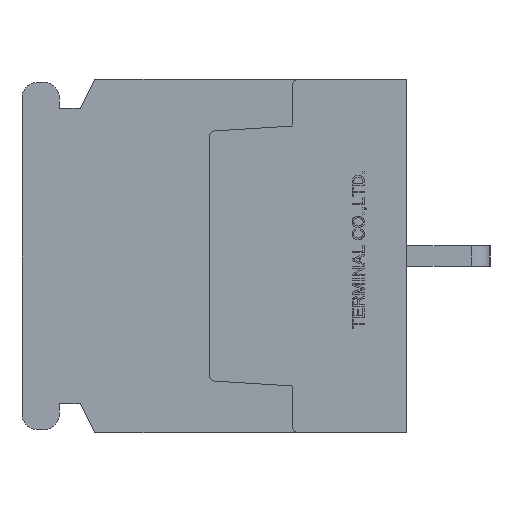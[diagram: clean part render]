
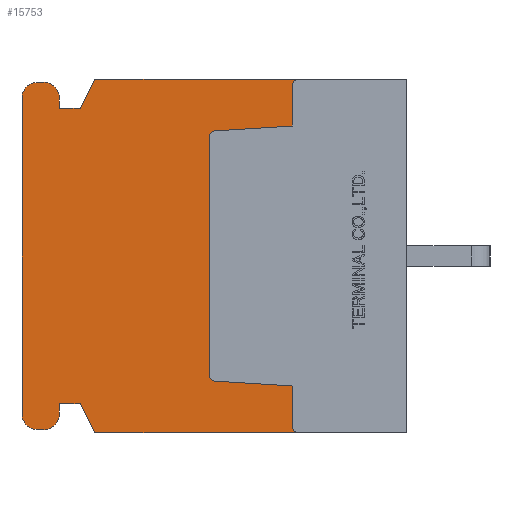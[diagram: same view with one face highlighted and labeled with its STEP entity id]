
A CAD part, left-side view. The second image highlights one B-rep face of the part: STEP entity #15753.
In plain terms, the highlighted planar face has unit normal (-1, 0, 0).
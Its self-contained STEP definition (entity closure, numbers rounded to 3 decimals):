
#352=CIRCLE('',#16188,0.3);
#353=CIRCLE('',#16190,0.3);
#354=CIRCLE('',#16194,0.3);
#355=CIRCLE('',#16197,0.3);
#640=CIRCLE('',#16964,0.75);
#641=CIRCLE('',#16965,0.75);
#642=CIRCLE('',#16966,0.75);
#643=CIRCLE('',#16967,0.75);
#1364=VERTEX_POINT('',#22125);
#1365=VERTEX_POINT('',#22126);
#1366=VERTEX_POINT('',#22131);
#1367=VERTEX_POINT('',#22135);
#1368=VERTEX_POINT('',#22136);
#1369=VERTEX_POINT('',#22141);
#1370=VERTEX_POINT('',#22145);
#1371=VERTEX_POINT('',#22149);
#1372=VERTEX_POINT('',#22153);
#1373=VERTEX_POINT('',#22157);
#1877=VERTEX_POINT('',#23788);
#1903=VERTEX_POINT('',#23846);
#2139=VERTEX_POINT('',#24674);
#2140=VERTEX_POINT('',#24676);
#2141=VERTEX_POINT('',#24678);
#2142=VERTEX_POINT('',#24680);
#2143=VERTEX_POINT('',#24682);
#2144=VERTEX_POINT('',#24684);
#2145=VERTEX_POINT('',#24686);
#2146=VERTEX_POINT('',#24688);
#2147=VERTEX_POINT('',#24690);
#2148=VERTEX_POINT('',#24692);
#2149=VERTEX_POINT('',#24694);
#2150=VERTEX_POINT('',#24696);
#3013=VECTOR('',#17752,1.);
#3019=VECTOR('',#17767,1.);
#3021=VECTOR('',#17770,1.);
#3024=VECTOR('',#17778,1.);
#3027=VECTOR('',#17786,1.);
#3499=VECTOR('',#19056,1.);
#3530=VECTOR('',#19089,1.);
#3770=VECTOR('',#19760,1.);
#3771=VECTOR('',#19761,1.);
#3772=VECTOR('',#19762,1.);
#3773=VECTOR('',#19765,1.);
#3774=VECTOR('',#19768,1.);
#3775=VECTOR('',#19771,1.);
#3776=VECTOR('',#19774,1.);
#3777=VECTOR('',#19775,1.);
#3778=VECTOR('',#19776,1.);
#4707=LINE('',#22124,#3013);
#4713=LINE('',#22140,#3019);
#4715=LINE('',#22144,#3021);
#4718=LINE('',#22152,#3024);
#4721=LINE('',#22160,#3027);
#5193=LINE('',#23787,#3499);
#5224=LINE('',#23847,#3530);
#5464=LINE('',#24673,#3770);
#5465=LINE('',#24675,#3771);
#5466=LINE('',#24677,#3772);
#5467=LINE('',#24681,#3773);
#5468=LINE('',#24685,#3774);
#5469=LINE('',#24689,#3775);
#5470=LINE('',#24693,#3776);
#5471=LINE('',#24695,#3777);
#5472=LINE('',#24697,#3778);
#6509=EDGE_CURVE('',#1364,#1365,#4707,.T.);
#6512=EDGE_CURVE('',#1366,#1364,#352,.T.);
#6514=EDGE_CURVE('',#1367,#1368,#353,.T.);
#6517=EDGE_CURVE('',#1369,#1367,#4713,.T.);
#6519=EDGE_CURVE('',#1370,#1369,#4715,.T.);
#6521=EDGE_CURVE('',#1371,#1370,#354,.T.);
#6523=EDGE_CURVE('',#1372,#1371,#4718,.T.);
#6525=EDGE_CURVE('',#1373,#1372,#355,.T.);
#6527=EDGE_CURVE('',#1365,#1373,#4721,.T.);
#7260=EDGE_CURVE('',#1366,#1877,#5193,.T.);
#7291=EDGE_CURVE('',#1903,#1368,#5224,.T.);
#7662=EDGE_CURVE('',#2139,#1903,#5464,.T.);
#7663=EDGE_CURVE('',#2140,#2139,#5465,.T.);
#7664=EDGE_CURVE('',#2141,#2140,#5466,.T.);
#7665=EDGE_CURVE('',#2142,#2141,#640,.T.);
#7666=EDGE_CURVE('',#2143,#2142,#5467,.T.);
#7667=EDGE_CURVE('',#2144,#2143,#641,.T.);
#7668=EDGE_CURVE('',#2145,#2144,#5468,.T.);
#7669=EDGE_CURVE('',#2146,#2145,#642,.T.);
#7670=EDGE_CURVE('',#2147,#2146,#5469,.T.);
#7671=EDGE_CURVE('',#2148,#2147,#643,.T.);
#7672=EDGE_CURVE('',#2149,#2148,#5470,.T.);
#7673=EDGE_CURVE('',#2150,#2149,#5471,.T.);
#7674=EDGE_CURVE('',#1877,#2150,#5472,.T.);
#11654=ORIENTED_EDGE('',*,*,#6514,.T.);
#11655=ORIENTED_EDGE('',*,*,#7291,.F.);
#11656=ORIENTED_EDGE('',*,*,#7662,.F.);
#11657=ORIENTED_EDGE('',*,*,#7663,.F.);
#11658=ORIENTED_EDGE('',*,*,#7664,.F.);
#11659=ORIENTED_EDGE('',*,*,#7665,.F.);
#11660=ORIENTED_EDGE('',*,*,#7666,.F.);
#11661=ORIENTED_EDGE('',*,*,#7667,.F.);
#11662=ORIENTED_EDGE('',*,*,#7668,.F.);
#11663=ORIENTED_EDGE('',*,*,#7669,.F.);
#11664=ORIENTED_EDGE('',*,*,#7670,.F.);
#11665=ORIENTED_EDGE('',*,*,#7671,.F.);
#11666=ORIENTED_EDGE('',*,*,#7672,.F.);
#11667=ORIENTED_EDGE('',*,*,#7673,.F.);
#11668=ORIENTED_EDGE('',*,*,#7674,.F.);
#11669=ORIENTED_EDGE('',*,*,#7260,.F.);
#11670=ORIENTED_EDGE('',*,*,#6512,.T.);
#11671=ORIENTED_EDGE('',*,*,#6509,.T.);
#11672=ORIENTED_EDGE('',*,*,#6527,.T.);
#11673=ORIENTED_EDGE('',*,*,#6525,.T.);
#11674=ORIENTED_EDGE('',*,*,#6523,.T.);
#11675=ORIENTED_EDGE('',*,*,#6521,.T.);
#11676=ORIENTED_EDGE('',*,*,#6519,.T.);
#11677=ORIENTED_EDGE('',*,*,#6517,.T.);
#13807=EDGE_LOOP('',(#11654,#11655,#11656,#11657,#11658,#11659,#11660,#11661,
#11662,#11663,#11664,#11665,#11666,#11667,#11668,#11669,#11670,#11671,#11672,
#11673,#11674,#11675,#11676,#11677));
#14815=FACE_BOUND('',#13807,.T.);
#15753=ADVANCED_FACE('',(#14815),#27000,.F.);
#16188=AXIS2_PLACEMENT_3D('',#22130,#17757,#17758);
#16190=AXIS2_PLACEMENT_3D('',#22134,#17762,#17763);
#16194=AXIS2_PLACEMENT_3D('',#22148,#17774,#17775);
#16197=AXIS2_PLACEMENT_3D('',#22156,#17782,#17783);
#16963=AXIS2_PLACEMENT_3D('',#24672,#19759,$);
#16964=AXIS2_PLACEMENT_3D('',#24679,#19763,#19764);
#16965=AXIS2_PLACEMENT_3D('',#24683,#19766,#19767);
#16966=AXIS2_PLACEMENT_3D('',#24687,#19769,#19770);
#16967=AXIS2_PLACEMENT_3D('',#24691,#19772,#19773);
#17752=DIRECTION('',(0.,0.,1.));
#17757=DIRECTION('',(1.,0.,0.));
#17758=DIRECTION('',(0.,0.,-0.3));
#17762=DIRECTION('',(1.,0.,0.));
#17763=DIRECTION('',(0.,0.,-0.3));
#17767=DIRECTION('',(0.,0.,1.));
#17770=DIRECTION('',(0.,-0.998,0.062));
#17774=DIRECTION('',(1.,0.,0.));
#17775=DIRECTION('',(0.,0.,-0.3));
#17778=DIRECTION('',(0.,0.,1.));
#17782=DIRECTION('',(1.,0.,0.));
#17783=DIRECTION('',(0.,0.,-0.3));
#17786=DIRECTION('',(0.,0.998,0.062));
#19056=DIRECTION('',(0.,1.,0.));
#19089=DIRECTION('',(0.,-1.,0.));
#19759=DIRECTION('',(1.,0.,0.));
#19760=DIRECTION('',(0.,-0.447,0.894));
#19761=DIRECTION('',(0.,-1.,0.));
#19762=DIRECTION('',(0.,0.,-1.));
#19763=DIRECTION('',(1.,0.,0.));
#19764=DIRECTION('',(0.,0.,-0.75));
#19765=DIRECTION('',(0.,-1.,0.));
#19766=DIRECTION('',(1.,0.,0.));
#19767=DIRECTION('',(0.,0.,-0.75));
#19768=DIRECTION('',(0.,0.,1.));
#19769=DIRECTION('',(1.,0.,0.));
#19770=DIRECTION('',(0.,0.,-0.75));
#19771=DIRECTION('',(0.,1.,0.));
#19772=DIRECTION('',(1.,0.,0.));
#19773=DIRECTION('',(0.,0.,-0.75));
#19774=DIRECTION('',(0.,0.,-1.));
#19775=DIRECTION('',(0.,1.,0.));
#19776=DIRECTION('',(0.,0.447,0.894));
#22124=CARTESIAN_POINT('',(0.,5.5,-3.613));
#22125=CARTESIAN_POINT('',(0.,5.5,-8.2));
#22126=CARTESIAN_POINT('',(0.,5.5,-6.25));
#22130=CARTESIAN_POINT('',(0.,5.2,-8.2));
#22131=CARTESIAN_POINT('',(0.,5.2,-8.5));
#22134=CARTESIAN_POINT('',(0.,5.2,8.2));
#22135=CARTESIAN_POINT('',(0.,5.5,8.2));
#22136=CARTESIAN_POINT('',(0.,5.2,8.5));
#22140=CARTESIAN_POINT('',(0.,5.5,3.612));
#22141=CARTESIAN_POINT('',(0.,5.5,6.25));
#22144=CARTESIAN_POINT('',(0.,8.598,6.056));
#22145=CARTESIAN_POINT('',(0.,9.219,6.018));
#22148=CARTESIAN_POINT('',(0.,9.2,5.718));
#22149=CARTESIAN_POINT('',(0.,9.5,5.718));
#22152=CARTESIAN_POINT('',(0.,9.5,0.));
#22153=CARTESIAN_POINT('',(0.,9.5,-5.718));
#22156=CARTESIAN_POINT('',(0.,9.2,-5.718));
#22157=CARTESIAN_POINT('',(0.,9.219,-6.018));
#22160=CARTESIAN_POINT('',(0.,8.598,-6.056));
#23787=CARTESIAN_POINT('',(0.,0.,-8.5));
#23788=CARTESIAN_POINT('',(0.,15.,-8.5));
#23846=CARTESIAN_POINT('',(0.,15.,8.5));
#23847=CARTESIAN_POINT('',(0.,15.,8.5));
#24672=CARTESIAN_POINT('',(0.,9.463,0.));
#24673=CARTESIAN_POINT('',(0.,15.7,7.1));
#24674=CARTESIAN_POINT('',(0.,15.7,7.1));
#24675=CARTESIAN_POINT('',(0.,16.7,7.1));
#24676=CARTESIAN_POINT('',(0.,16.7,7.1));
#24677=CARTESIAN_POINT('',(0.,16.7,7.6));
#24678=CARTESIAN_POINT('',(0.,16.7,7.6));
#24679=CARTESIAN_POINT('',(0.,17.45,7.6));
#24680=CARTESIAN_POINT('',(0.,17.45,8.35));
#24681=CARTESIAN_POINT('',(0.,17.75,8.35));
#24682=CARTESIAN_POINT('',(0.,17.75,8.35));
#24683=CARTESIAN_POINT('',(0.,17.75,7.6));
#24684=CARTESIAN_POINT('',(0.,18.5,7.6));
#24685=CARTESIAN_POINT('',(0.,18.5,-7.6));
#24686=CARTESIAN_POINT('',(0.,18.5,-7.6));
#24687=CARTESIAN_POINT('',(0.,17.75,-7.6));
#24688=CARTESIAN_POINT('',(0.,17.75,-8.35));
#24689=CARTESIAN_POINT('',(0.,17.45,-8.35));
#24690=CARTESIAN_POINT('',(0.,17.45,-8.35));
#24691=CARTESIAN_POINT('',(0.,17.45,-7.6));
#24692=CARTESIAN_POINT('',(0.,16.7,-7.6));
#24693=CARTESIAN_POINT('',(0.,16.7,-7.1));
#24694=CARTESIAN_POINT('',(0.,16.7,-7.1));
#24695=CARTESIAN_POINT('',(0.,15.7,-7.1));
#24696=CARTESIAN_POINT('',(0.,15.7,-7.1));
#24697=CARTESIAN_POINT('',(0.,15.,-8.5));
#27000=PLANE('',#16963);
